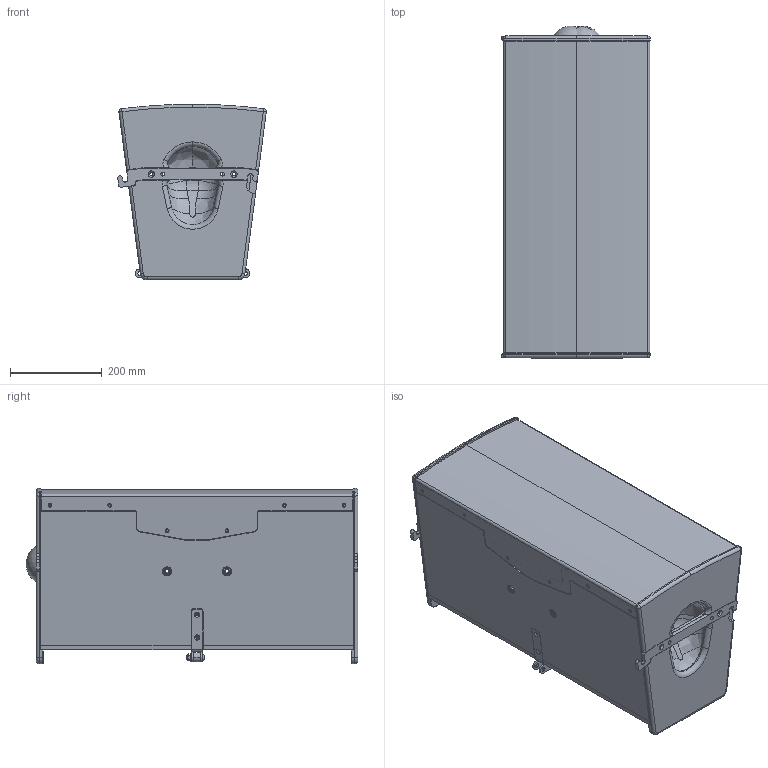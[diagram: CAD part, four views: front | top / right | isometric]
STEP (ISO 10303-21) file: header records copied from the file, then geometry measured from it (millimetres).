
FILE_DESCRIPTION (( 'STEP AP203' ), '1' );
FILE_NAME ('C15-3D.STEP', '2024-09-18T10:54:09', ( '' ), ( '' ), 'SwSTEP 2.0', 'SolidWorks 2009', '' );
FILE_SCHEMA (( 'CONFIG_CONTROL_DESIGN' ));
Length unit declared in the file: millimetre
Products named in the file (1): C15-3D
Bounding box: 323.17 x 721.98 x 382 mm (x, y, z)
Surface area: 1810834.7 mm2 (no closed solid volume)
Topology: 0 solids, 82 shells, 764 faces, 2939 edges, 2214 vertices
Faces by surface type: cylinder 250, plane 237, bspline 173, cone 47, torus 45, sphere 12
Entity records: 34659 total; most frequent: CARTESIAN_POINT 10651, DIRECTION 5019, ORIENTED_EDGE 4380, EDGE_CURVE 2923, VERTEX_POINT 2210, AXIS2_PLACEMENT_3D 1817, LINE 1385, VECTOR 1385
